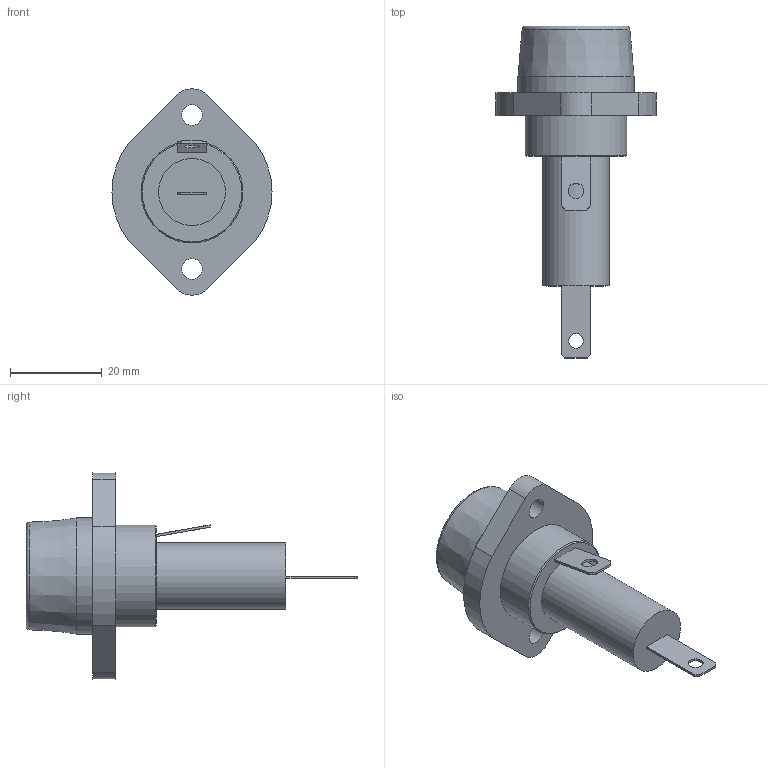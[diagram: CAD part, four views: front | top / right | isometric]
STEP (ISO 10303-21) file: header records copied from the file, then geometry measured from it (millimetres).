
FILE_DESCRIPTION(/* description */ (''),/* implementation_level */ '2;1');
FILE_NAME(/* name */ 'C:\Users\Hani\Desktop\work\PMG-KB-01-Q2S\PMG-KB-01-Q2S.stp',/* time_stamp */ '2021-12-21T13:12:15-08:00',/* author */ ('Hani'),/* organization */ (''),/* preprocessor_version */ 'ST-DEVELOPER v17',/* originating_system */ 'Autodesk Inventor 2019',/* authorisation */ '');
FILE_SCHEMA (('AUTOMOTIVE_DESIGN { 1 0 10303 214 3 1 1 }'));
Length unit declared in the file: inch
Products named in the file (4): PMA-KS-06-Q1S; PMA-KS-06-Q1S_1; centerterminal; sideTer
Assembly tree (3 placements, depth 2):
  PMA-KS-06-Q1S
    PMA-KS-06-Q1S_1
    centerterminal
    sideTer
Bounding box: 34.89 x 72.37 x 44.97 mm (x, y, z)
Volume: 18444.3 mm3; surface area: 7526.1 mm2
Topology: 3 solids, 5 shells, 181 faces, 468 edges, 312 vertices
Faces by surface type: plane 98, bspline 67, cylinder 13, cone 2, torus 1
Full cylindrical faces by diameter (mm): 3.226 x1, 3.429 x1, 4.5 x2, 10.414 x1, 14.6 x1, 22.225 x1, 22.9 x1, 25.3 x1
Entity records: 6232 total; most frequent: CARTESIAN_POINT 2055, ORIENTED_EDGE 936, DIRECTION 609, EDGE_CURVE 468, VERTEX_POINT 312, LINE 301, VECTOR 301, EDGE_LOOP 204
